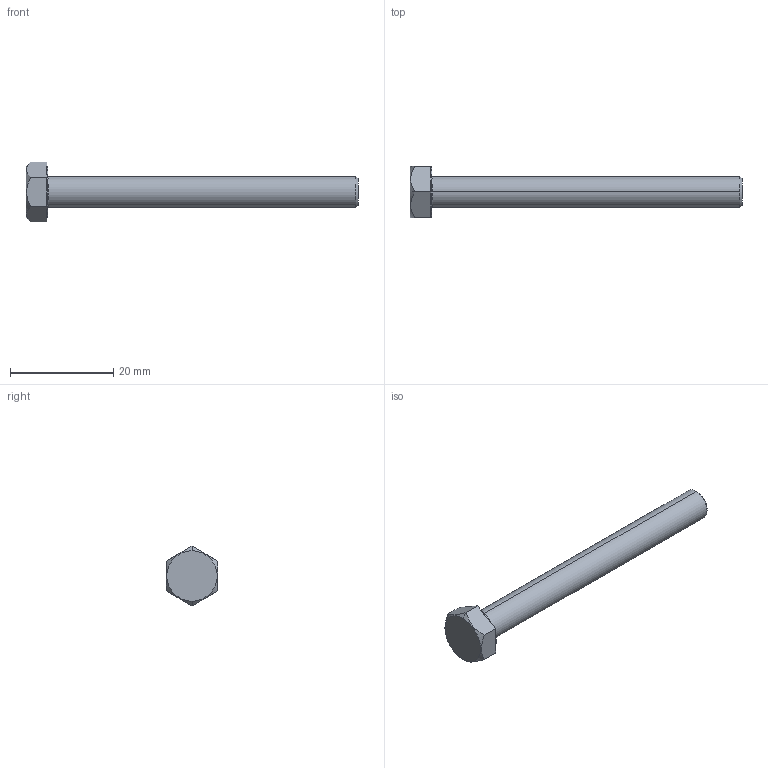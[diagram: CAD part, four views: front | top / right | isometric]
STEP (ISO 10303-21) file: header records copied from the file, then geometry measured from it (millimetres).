
FILE_DESCRIPTION (( 'STEP AP203' ), '1' );
FILE_NAME ('LGN-TD-M6x60.STEP', '2026-08-14T04:05:55', ( '' ), ( '' ), 'SwSTEP 2.0', 'SolidWorks 2020', '' );
FILE_SCHEMA (( 'CONFIG_CONTROL_DESIGN' ));
Length unit declared in the file: millimetre
Products named in the file (1): LGN-TD-M6x60
Bounding box: 64.2 x 10 x 11.55 mm (x, y, z)
Volume: 2054.2 mm3; surface area: 1434.2 mm2
Topology: 1 solids, 1 shells, 25 faces, 54 edges, 32 vertices
Faces by surface type: plane 15, cone 4, cylinder 4, torus 2
Entity records: 809 total; most frequent: CARTESIAN_POINT 182, DIRECTION 122, ORIENTED_EDGE 108, EDGE_CURVE 54, AXIS2_PLACEMENT_3D 48, VERTEX_POINT 32, EDGE_LOOP 26, VECTOR 26
